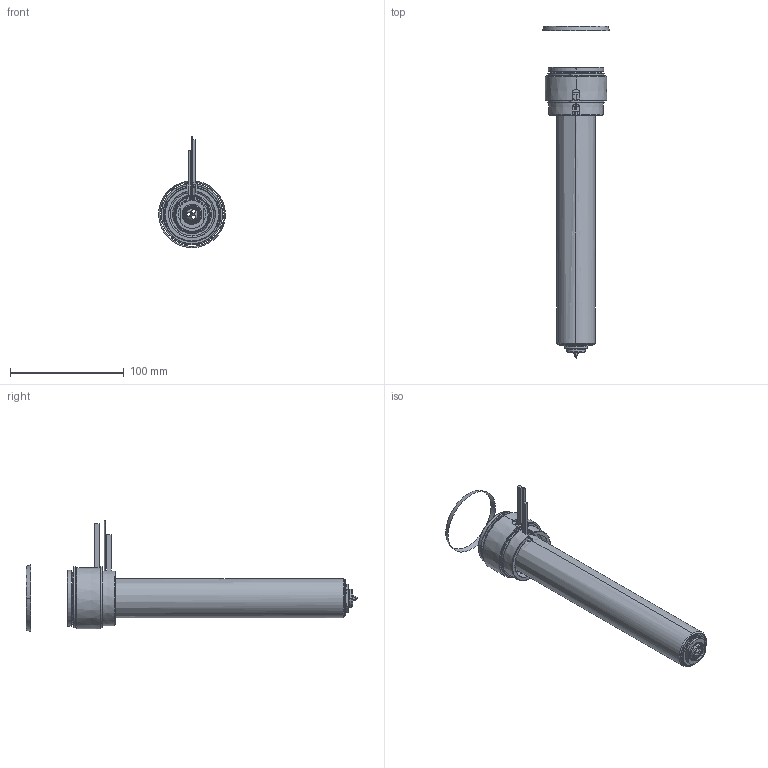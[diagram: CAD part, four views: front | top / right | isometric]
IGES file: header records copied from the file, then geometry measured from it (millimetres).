
Start section: SolidWorks IGES file using analytic representation for surfaces
Global section: file name: C:\Documents and Settings\ws-20\Desktop\TEM\UGEP5505-S-A-1 [Øf-0.80 ØC-12].IGS; native system: SolidWorks 2012; preprocessor: SolidWorks 2012; author: ws-20; date: 120427.080705; units: millimetre
Bounding box: 58.79 x 292.24 x 98.01 mm (x, y, z)
Surface area: 106363.6 mm2 (no closed solid volume)
Topology: 0 solids, 0 shells, 177 faces, 3590 edges, 3590 vertices
Faces by surface type: revolution 115, bspline 62
